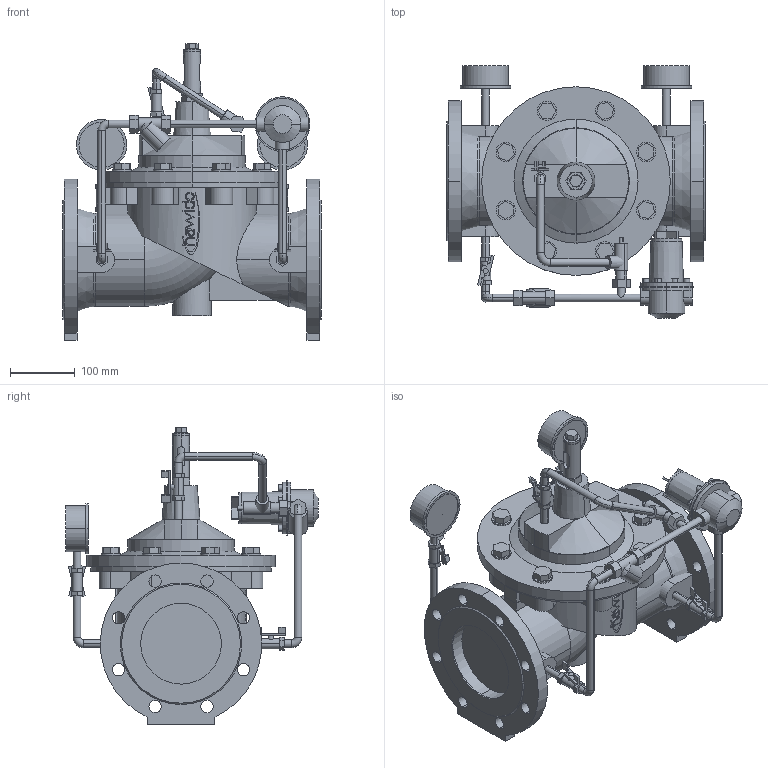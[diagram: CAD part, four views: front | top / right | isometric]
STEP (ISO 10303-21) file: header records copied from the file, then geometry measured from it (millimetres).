
FILE_DESCRIPTION(('STEP AP214'),'1');
FILE_NAME('S:/EK/USER/CAT6/3DHomepage_27-04-2012/CH-Produkte/1500/1500_PN16_DN125.STP','2013-01-18T08:40:35',(' '),(' '),'Spatial InterOp 3D',' ',' ');
FILE_SCHEMA(('automotive_design'));
Length unit declared in the file: millimetre
Products named in the file (178): 3D-Objekt
Bounding box: 400 x 390.99 x 459.8 mm (x, y, z)
Volume: 13897430 mm3; surface area: 1287761.7 mm2
Topology: 178 solids, 178 shells, 1275 faces, 2752 edges, 1835 vertices
Faces by surface type: plane 868, cylinder 369, cone 22, torus 16
Entity records: 50097 total; most frequent: CARTESIAN_POINT 7101, DIRECTION 6459, ORIENTED_EDGE 5504, EDGE_CURVE 2752, AXIS2_PLACEMENT_3D 2277, LINE 1905, VECTOR 1905, VERTEX_POINT 1835
